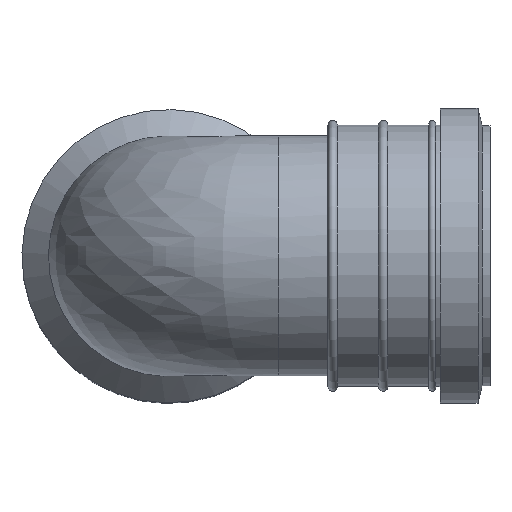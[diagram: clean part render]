
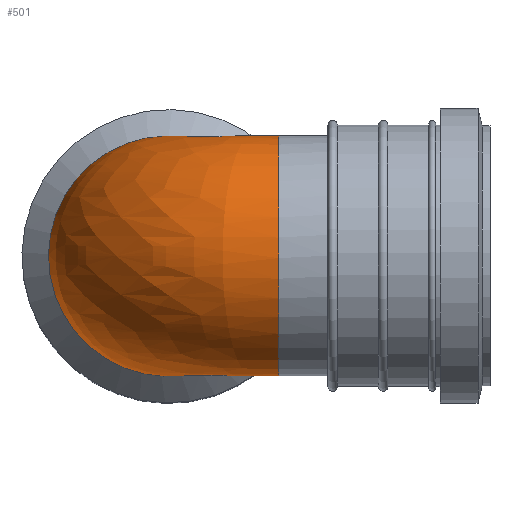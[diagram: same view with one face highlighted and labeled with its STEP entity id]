
A CAD part, top view. The second image highlights one B-rep face of the part: STEP entity #501.
In plain terms, the highlighted free-form (B-spline) face has degree [2, 2] with [9, 3] control points.
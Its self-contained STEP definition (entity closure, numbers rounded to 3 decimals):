
#14=(
BOUNDED_SURFACE()
B_SPLINE_SURFACE(2,2,((#1356,#1357,#1358),(#1359,#1360,#1361),(#1362,#1363,
#1364),(#1365,#1366,#1367),(#1368,#1369,#1370),(#1371,#1372,#1373),(#1374,
#1375,#1376),(#1377,#1378,#1379),(#1380,#1381,#1382)),.UNSPECIFIED.,.F.,
 .F.,.F.)
B_SPLINE_SURFACE_WITH_KNOTS((3,2,2,2,3),(3,3),(-2.736,-1.368,
0.,1.368,2.736),(-1.571,0.),
 .UNSPECIFIED.)
GEOMETRIC_REPRESENTATION_ITEM()
RATIONAL_B_SPLINE_SURFACE(((1.,0.707,1.),(0.775,0.548,
0.775),(1.,0.707,1.),(0.775,0.548,
0.775),(1.,0.707,1.),(0.775,0.548,
0.775),(1.,0.707,1.),(0.775,0.548,
0.775),(1.,0.707,1.)))
REPRESENTATION_ITEM('')
SURFACE()
);
#113=FACE_OUTER_BOUND('',#177,.T.);
#177=EDGE_LOOP('',(#389,#390));
#190=CIRCLE('',#532,45.188);
#221=CIRCLE('',#591,45.188);
#226=VERTEX_POINT('',#747);
#227=VERTEX_POINT('',#748);
#269=EDGE_CURVE('',#227,#226,#190,.T.);
#309=EDGE_CURVE('',#227,#226,#221,.T.);
#389=ORIENTED_EDGE('',*,*,#269,.T.);
#390=ORIENTED_EDGE('',*,*,#309,.F.);
#501=ADVANCED_FACE('',(#113),#14,.F.);
#532=AXIS2_PLACEMENT_3D('',#750,#607,#608);
#591=AXIS2_PLACEMENT_3D('',#1383,#727,#728);
#607=DIRECTION('center_axis',(-1.,0.,0.));
#608=DIRECTION('ref_axis',(0.,-0.438,-0.899));
#727=DIRECTION('center_axis',(0.,0.,-1.));
#728=DIRECTION('ref_axis',(0.,1.,0.));
#747=CARTESIAN_POINT('',(41.512,17.85,184.488));
#748=CARTESIAN_POINT('',(41.512,-17.85,184.488));
#750=CARTESIAN_POINT('Origin',(41.513,0.,226.));
#1356=CARTESIAN_POINT('Ctrl Pts',(41.512,-17.85,184.488));
#1357=CARTESIAN_POINT('Ctrl Pts',(41.512,-17.85,184.488));
#1358=CARTESIAN_POINT('Ctrl Pts',(41.512,-17.85,184.488));
#1359=CARTESIAN_POINT('Ctrl Pts',(26.963,-51.686,184.488));
#1360=CARTESIAN_POINT('Ctrl Pts',(26.963,-51.686,199.037));
#1361=CARTESIAN_POINT('Ctrl Pts',(41.512,-51.686,199.037));
#1362=CARTESIAN_POINT('Ctrl Pts',(-9.112,-44.259,184.488));
#1363=CARTESIAN_POINT('Ctrl Pts',(-9.112,-44.259,235.112));
#1364=CARTESIAN_POINT('Ctrl Pts',(41.512,-44.259,235.112));
#1365=CARTESIAN_POINT('Ctrl Pts',(-45.188,-36.832,184.488));
#1366=CARTESIAN_POINT('Ctrl Pts',(-45.188,-36.832,271.188));
#1367=CARTESIAN_POINT('Ctrl Pts',(41.512,-36.832,271.188));
#1368=CARTESIAN_POINT('Ctrl Pts',(-45.188,0.,
184.488));
#1369=CARTESIAN_POINT('Ctrl Pts',(-45.188,0.,
271.188));
#1370=CARTESIAN_POINT('Ctrl Pts',(41.512,0.,
271.188));
#1371=CARTESIAN_POINT('Ctrl Pts',(-45.188,36.832,184.487));
#1372=CARTESIAN_POINT('Ctrl Pts',(-45.188,36.832,271.188));
#1373=CARTESIAN_POINT('Ctrl Pts',(41.513,36.832,271.188));
#1374=CARTESIAN_POINT('Ctrl Pts',(-9.112,44.259,184.487));
#1375=CARTESIAN_POINT('Ctrl Pts',(-9.112,44.259,235.112));
#1376=CARTESIAN_POINT('Ctrl Pts',(41.513,44.259,235.112));
#1377=CARTESIAN_POINT('Ctrl Pts',(26.963,51.686,184.487));
#1378=CARTESIAN_POINT('Ctrl Pts',(26.963,51.686,199.037));
#1379=CARTESIAN_POINT('Ctrl Pts',(41.513,51.686,199.037));
#1380=CARTESIAN_POINT('Ctrl Pts',(41.512,17.85,184.488));
#1381=CARTESIAN_POINT('Ctrl Pts',(41.512,17.85,184.488));
#1382=CARTESIAN_POINT('Ctrl Pts',(41.512,17.85,184.488));
#1383=CARTESIAN_POINT('Origin',(0.,0.,184.488));
